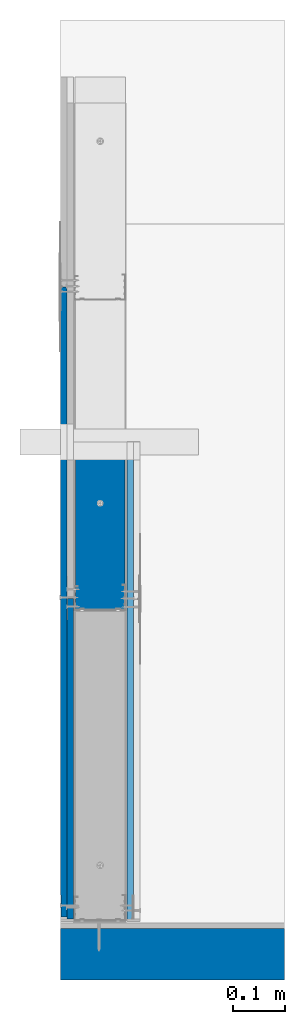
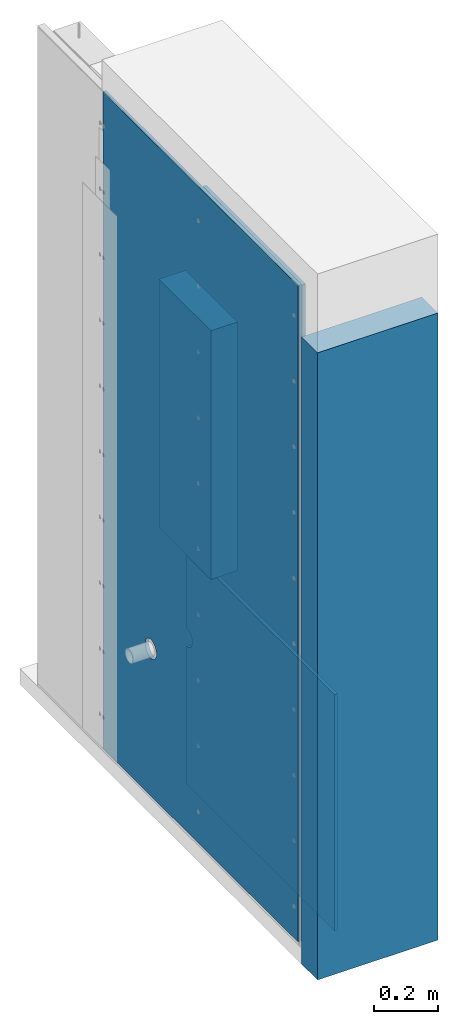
# One storey, part 5 of 92: 5 walls.
"""IFC2X3 building model written with IfcOpenShell, lengths in millimetres."""

import ifcopenshell
import ifcopenshell.guid

model = None  # the IFC model being written
_history = None  # IfcOwnerHistory: only IFC2X3 demands one
_inside = {}  # id of a spatial element -> (the spatial element, [elements in it])
_under = {}  # id of a project, library or spatial element -> (it, [spatial elements below it])
_declared = {}  # id of a project -> (the project, [libraries it declares])
_typed = {}  # id of a type object -> (the type object, [elements of that type])
_made_of = {}  # id of a material, layer set ... -> (it, [elements and type objects made of it])


def new_model(schema):
    """Start an empty IFC model of exactly this schema.

    Asked for "IFC4X3", IfcOpenShell would pick the latest addendum, in which some entities
    have other attributes; the version numbers below select the first issue.
    IFC2X3 requires an IfcOwnerHistory on every rooted entity: one is made here for all.
    """
    global model, _history
    if schema == "IFC4X3":
        model = ifcopenshell.file(schema_version=(4, 3, 0, 0))
    else:
        model = ifcopenshell.file(schema=schema)
    _inside.clear()
    _under.clear()
    _declared.clear()
    _typed.clear()
    _made_of.clear()
    _history = None
    if model.schema == "IFC2X3":
        org = make("IfcOrganization", Name="unknown")
        user = make(
            "IfcPersonAndOrganization",
            ThePerson=make("IfcPerson", FamilyName="unknown"),
            TheOrganization=org,
        )
        app = make(
            "IfcApplication",
            ApplicationDeveloper=org,
            Version="unknown",
            ApplicationFullName="unknown",
            ApplicationIdentifier="unknown",
        )
        _history = make(
            "IfcOwnerHistory",
            OwningUser=user,
            OwningApplication=app,
            ChangeAction="ADDED",
            CreationDate=0,
        )
    return model


def make(cls, **values):
    """One entity of the class cls with the attributes given. An attribute that is None is left unset."""
    return model.create_entity(
        cls, **{name: value for name, value in values.items() if value is not None}
    )


def rooted(cls, **values):
    """An entity with a GlobalId (a new one), such as an element, a storey or a relation."""
    return make(cls, GlobalId=ifcopenshell.guid.new(), OwnerHistory=_history, **values)


def si_unit(unit_type, name, prefix=None):
    """IfcSIUnit, for example si_unit("LENGTHUNIT", "METRE", prefix="MILLI")."""
    return make("IfcSIUnit", UnitType=unit_type, Prefix=prefix, Name=name)


def assignment(units):
    """IfcUnitAssignment: the units of a project."""
    return None if units is None else make("IfcUnitAssignment", Units=units)


def point(xyz):
    """IfcCartesianPoint."""
    return None if xyz is None else make("IfcCartesianPoint", Coordinates=xyz)


def direction(xyz):
    """IfcDirection."""
    return None if xyz is None else make("IfcDirection", DirectionRatios=xyz)


def frame(location, z_axis=None, x_axis=None):
    """IfcAxis2Placement3D, a coordinate frame: its origin and axes. An axis left out is left unset."""
    return make(
        "IfcAxis2Placement3D",
        Location=point(location),
        Axis=direction(z_axis),
        RefDirection=direction(x_axis),
    )


def origin_with_axes():
    """The frame at (0, 0, 0) with the z axis (0, 0, 1) and the x axis (1, 0, 0) written out."""
    return frame((0.0, 0.0, 0.0), z_axis=(0.0, 0.0, 1.0), x_axis=(1.0, 0.0, 0.0))


def place(relative_to, where):
    """IfcLocalPlacement: puts the frame where relative to a parent placement (None: the world)."""
    return make(
        "IfcLocalPlacement", PlacementRelTo=relative_to, RelativePlacement=where
    )


def context(
    kind, dimensions, precision=None, world=None, true_north=None, identifier=None
):
    """IfcGeometricRepresentationContext, for example the 3D "Model" context."""
    return make(
        "IfcGeometricRepresentationContext",
        ContextIdentifier=identifier,
        ContextType=kind,
        CoordinateSpaceDimension=dimensions,
        Precision=precision,
        WorldCoordinateSystem=world,
        TrueNorth=true_north,
    )


def subcontext(parent, identifier, kind, view, scale=None):
    """IfcGeometricRepresentationSubContext, for example "Body" below "Model"."""
    return make(
        "IfcGeometricRepresentationSubContext",
        ContextIdentifier=identifier,
        ContextType=kind,
        ParentContext=parent,
        TargetScale=scale,
        TargetView=view,
    )


def project(units=None, contexts=None):
    """IfcProject with its units and contexts."""
    return rooted(
        "IfcProject",
        Name="project",
        RepresentationContexts=contexts,
        UnitsInContext=assignment(units),
    )


def spatial(cls, under=None, at=None, **own):
    """A site, building, storey or space (cls), placed at a placement, below another one or the project."""
    s = rooted(cls, ObjectPlacement=at, **own)
    if under is not None:
        _under.setdefault(under.id(), (under, []))[1].append(s)
    return s


def faces_of(points, faces, orient=None, outer=None):
    """IfcFace entities. A face is a list of loops; a loop is a list of indices into points, from 0.

    orient and outer hold one flag for each loop. By default every Orientation is true, the
    first loop of a face is its IfcFaceOuterBound and the others are IfcFaceBound.
    """
    made = []
    for i, loops in enumerate(faces):
        bounds = []
        for j, loop in enumerate(loops):
            is_outer = j == 0 if outer is None else outer[i][j]
            bounds.append(
                make(
                    "IfcFaceOuterBound" if is_outer else "IfcFaceBound",
                    Bound=make("IfcPolyLoop", Polygon=[points[k] for k in loop]),
                    Orientation=True if orient is None else orient[i][j],
                )
            )
        made.append(make("IfcFace", Bounds=bounds))
    return made


def faceted_brep(points, faces, orient=None, outer=None, voids=None):
    """IfcFacetedBrep: a solid bounded by flat faces; with voids (closed shells), ...WithVoids."""
    shared = [point(p) for p in points]
    hull = make("IfcClosedShell", CfsFaces=faces_of(shared, faces, orient, outer))
    if voids is None:
        return make("IfcFacetedBrep", Outer=hull)
    return make(
        "IfcFacetedBrepWithVoids",
        Outer=hull,
        Voids=[
            make(cls, CfsFaces=faces_of(shared, fs, o, b)) for cls, fs, o, b in voids
        ],
    )


def shape(context_of_items, identifier, shape_type, items):
    """IfcShapeRepresentation: the items that make up one representation, for example the "Body"."""
    return make(
        "IfcShapeRepresentation",
        ContextOfItems=context_of_items,
        RepresentationIdentifier=identifier,
        RepresentationType=shape_type,
        Items=items,
    )


def material(Name=None, Category=None):
    """IfcMaterial."""
    return make("IfcMaterial", Name=Name, Category=Category)


def made_of(thing, what):
    """Note that an element or type object is made of a material, layer set ...; save() writes the relation."""
    if what is not None:
        _made_of.setdefault(what.id(), (what, []))[1].append(thing)
    return thing


def type_object(cls, material=None, **own):
    """A type object (cls), such as IfcWallType, which elements share."""
    return made_of(rooted(cls, **own), material)


def element(
    cls,
    number,
    at=None,
    inside=None,
    cuts=None,
    type_object=None,
    material=None,
    context=None,
    identifier="Body",
    shape_type=None,
    held_by="IfcProductDefinitionShape",
    body=None,
    shapes=None,
    **own,
):
    """One element of the class cls, such as IfcWall. Its Tag is "e" and its number.

    at: its placement. inside: the storey or other place that contains it. cuts: it is an
    opening in that element (IfcRelVoidsElement). A single representation is given by context,
    identifier, shape_type and body (its items); several are given by shapes. held_by: the class
    of the entity that holds the representations. save() writes the other relations.
    """
    e = rooted(cls, Tag="e%d" % number, ObjectPlacement=at, **own)
    if body is not None:
        shapes = [shape(context, identifier, shape_type, body)]
    if shapes is not None:
        e.Representation = make(held_by, Representations=shapes)
    if inside is not None:
        _inside.setdefault(inside.id(), (inside, []))[1].append(e)
    if cuts is not None:
        rooted(
            "IfcRelVoidsElement", RelatingBuildingElement=cuts, RelatedOpeningElement=e
        )
    if type_object is not None:
        _typed.setdefault(type_object.id(), (type_object, []))[1].append(e)
    return made_of(e, material)


def aggregate(whole, parts):
    """IfcRelAggregates: a whole, such as a stair, and the parts it consists of."""
    return rooted("IfcRelAggregates", RelatingObject=whole, RelatedObjects=parts)


def save(model, path):
    """Write the relations noted so far, then the file.

    IfcRelAggregates (storeys below a building ...), IfcRelContainedInSpatialStructure (elements
    in a storey), IfcRelDefinesByType, IfcRelAssociatesMaterial and IfcRelDeclares: one each for
    every whole, place, type object, material and project.
    """
    for whole, parts in _under.values():
        aggregate(whole, parts)
    for where, things in _inside.values():
        rooted(
            "IfcRelContainedInSpatialStructure",
            RelatedElements=things,
            RelatingStructure=where,
        )
    for kind, things in _typed.values():
        rooted("IfcRelDefinesByType", RelatedObjects=things, RelatingType=kind)
    for what, things in _made_of.values():
        rooted("IfcRelAssociatesMaterial", RelatedObjects=things, RelatingMaterial=what)
    for by, libraries in _declared.values():
        rooted("IfcRelDeclares", RelatingContext=by, RelatedDefinitions=libraries)
    model.write(path)


model = new_model("IFC2X3")

# Units and contexts
model_context = context("Model", 3, world=origin_with_axes())
body_context = subcontext(model_context, "Body", "Model", "MODEL_VIEW")
ifc_project = project(units=[si_unit("LENGTHUNIT", "METRE", prefix="MILLI"), si_unit("AREAUNIT", "SQUARE_METRE"), si_unit("VOLUMEUNIT", "CUBIC_METRE")], contexts=[model_context])

# Site, building, storey
site_placement = place(None, origin_with_axes())
site = spatial("IfcSite", under=ifc_project, at=site_placement, Name="Default Site", CompositionType="ELEMENT")
building_placement = place(site_placement, origin_with_axes())
building = spatial("IfcBuilding", under=site, at=building_placement, Name="Default Building", CompositionType="ELEMENT")
storey_placement = place(building_placement, origin_with_axes())
storey = spatial("IfcBuildingStorey", under=building, at=storey_placement, Name="Default Building Storey", CompositionType="ELEMENT", Elevation=0.0)

# Walls
ifc_material_1 = material(Name="M03_Pewter_Shine")
wall_type_1 = type_object("IfcWallType", Name="Ściana#2", PredefinedType="NOTDEFINED")
wall_1_placement = place(storey_placement, frame((30.00000000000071, 103.00000000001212, 2594.0099832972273), z_axis=(-4.0245584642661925e-16, -1.0, 8.326672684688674e-17), x_axis=(3.3511181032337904e-32, 8.326672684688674e-17, 1.0)))
element("IfcWall", 1, at=wall_1_placement, inside=storey, type_object=wall_type_1, material=ifc_material_1, Name="Ściana", context=body_context, shape_type="Brep", body=[
    faceted_brep([(-205.9999832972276, 29.999999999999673, 3.0000004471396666), (-205.9999832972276, 29.999999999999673, 103.00000000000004), (-205.9999832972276, -403.00000000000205, 103.00000000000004), (-205.9999832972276, -403.00000000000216, 3.0000004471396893), (-2594.0099832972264, 29.999999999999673, 102.99999999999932), (-2594.0099832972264, 29.999999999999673, 3.0000004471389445), (-2594.0099832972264, -403.00000000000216, 3.000000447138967), (-2594.0099832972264, -403.00000000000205, 102.99999999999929)], [[[0, 1, 2, 3]], [[4, 5, 6, 7]], [[1, 0, 5, 4]], [[2, 1, 4, 7]], [[3, 2, 7, 6]], [[0, 3, 6, 5]]]),
])
ifc_material_2 = material(Name="Undefined7")
wall_type_2 = type_object("IfcWallType", Name="Wełna mineralna szklana lub skalna ISOVER#5", PredefinedType="NOTDEFINED")
wall_2_placement = place(storey_placement, frame((-3300.1804365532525, 624.8453720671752, 1317.661340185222), z_axis=(0.0, 0.0, 1.0), x_axis=(-8.743006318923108e-16, -1.0, 0.0)))
element("IfcWall", 2, at=wall_2_placement, inside=storey, type_object=wall_type_2, material=ifc_material_2, Name="Wełna mineralna szklana lub skalna ISOVER", context=body_context, shape_type="Brep", body=[
    faceted_brep([(-415.37010775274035, 3329.283237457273, 710.0263702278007), (-415.37010775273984, 3425.092905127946, 710.0263702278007), (-415.37010775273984, 3425.092905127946, -236.9700000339), (-415.37010775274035, 3329.283237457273, -236.9700000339), (-90.72011967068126, 3329.283237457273, 710.0263702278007), (-90.72011967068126, 3425.092905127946, 710.0263702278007)], [[[0, 1, 2, 3]], [[0, 4, 5, 1]]]),
    faceted_brep([(-415.37010775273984, 3425.092905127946, -236.9700000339), (-90.72011967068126, 3425.092905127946, -236.9700000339), (-90.72011967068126, 3329.283237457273, -236.9700000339), (-415.37010775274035, 3329.283237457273, -236.9700000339), (-415.37010775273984, 3425.092905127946, 710.0263702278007), (-90.72011967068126, 3425.092905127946, 710.0263702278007), (-90.72011967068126, 3329.283237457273, 710.0263702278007), (-415.37010775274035, 3329.283237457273, 710.0263702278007)], [[[0, 1, 2, 3]], [[4, 5, 1, 0]], [[3, 2, 6, 7]], [[5, 6, 2, 1]]]),
])
ifc_material_3 = material(Name="Undefined6")
wall_type_3 = type_object("IfcWallType", Name="Płyta gipsowo-kartonowa RIGIPS PRO (4PRO™)#3", PredefinedType="NOTDEFINED")
wall_3_placement = place(storey_placement, frame((12.500000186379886, 140.2154987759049, 1120.0056054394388), z_axis=(0.0, 0.0, 1.0), x_axis=(4.0245584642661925e-16, 1.0, 0.0)))
element("IfcWall", 3, at=wall_3_placement, inside=storey, type_object=wall_type_3, material=ifc_material_3, Name="Płyta gipsowo-kartonowa RIGIPS PRO (4PRO™)", context=body_context, shape_type="Brep", body=[
    faceted_brep([(1159.0000391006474, 11.500000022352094, 1450.0000014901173), (1154.999971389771, 12.500000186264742, 1450.0000014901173), (27.000001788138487, 12.500000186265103, 1450.0000014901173), (23.000001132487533, 11.500000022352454, 1450.0000014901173), (-16.999999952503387, 11.500000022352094, 1450.0000014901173), (-17.25881903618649, 11.46592572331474, 1450.0000014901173), (-17.499999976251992, 11.36602554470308, 1450.0000014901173), (-17.707106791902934, 11.207106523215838, 1450.0000014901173), (-17.86602540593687, 10.999999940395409, 1450.0000014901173), (-17.965925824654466, 10.758819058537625, 1450.0000014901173), (-18.000000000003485, 10.499999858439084, 1450.0000014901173), (-18.0000000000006, -3.609557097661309e-11, 1450.0000014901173), (1200.0000476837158, -3.6456526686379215e-11, 1450.0000014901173), (1200.0000476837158, 10.499999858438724, 1450.0000014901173), (1199.965953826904, 10.758819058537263, 1450.0000014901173), (1199.8660564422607, 10.999999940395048, 1450.0000014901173), (1199.70715045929, 11.207106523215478, 1450.0000014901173), (1199.4999647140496, 11.366025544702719, 1450.0000014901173), (1199.2588043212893, 11.465925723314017, 1450.0000014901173), (1199.0000009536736, 11.500000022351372, 1450.0000014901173), (1199.965953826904, 10.758819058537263, -1050.001621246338), (1200.0000476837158, 10.499999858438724, -1050.001621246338), (1200.0000476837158, -3.6095570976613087e-13, -1050.001621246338), (-18.0000000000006, 0.0, -1050.001621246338), (-18.000000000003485, 10.499999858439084, -1050.001621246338), (-17.965925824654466, 10.758819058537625, -1050.001621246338), (-17.86602540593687, 10.999999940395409, -1050.001621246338), (-17.707106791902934, 11.207106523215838, -1050.001621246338), (-17.499999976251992, 11.36602554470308, -1050.001621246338), (-17.25881903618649, 11.46592572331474, -1050.001621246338), (-16.999999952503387, 11.500000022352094, -1050.001621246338), (23.000001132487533, 11.500000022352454, -1050.001621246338), (27.000001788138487, 12.500000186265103, -1050.001621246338), (1154.999971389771, 12.500000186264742, -1050.001621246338), (1159.0000391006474, 11.500000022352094, -1050.001621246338), (1199.0000009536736, 11.500000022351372, -1050.001621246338), (1199.2588043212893, 11.465925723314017, -1050.001621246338), (1199.4999647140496, 11.366025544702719, -1050.001621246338), (1199.70715045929, 11.207106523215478, -1050.001621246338), (1199.8660564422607, 10.999999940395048, -1050.001621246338), (895.4539908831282, 12.50000018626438, -455.18648335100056), (892.7425749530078, 12.50000018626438, -455.63454139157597), (890.0746716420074, 12.50000018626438, -456.29395346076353), (887.4667294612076, 12.50000018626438, -457.1606540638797), (884.9348272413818, 12.50000018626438, -458.22929970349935), (882.4945750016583, 12.50000018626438, -459.4933018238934), (880.1610177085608, 12.50000018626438, -460.94486743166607), (877.9485425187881, 12.50000018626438, -462.575047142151), (875.870790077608, 12.50000018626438, -464.37379035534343), (873.9405704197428, 12.50000018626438, -466.3300072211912), (872.1697839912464, 12.50000018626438, -468.43163701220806), (870.5693482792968, 12.50000018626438, -470.6657224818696), (869.1491305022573, 12.50000018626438, -473.0184897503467), (867.9178867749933, 12.50000018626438, -475.47543322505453), (866.8832081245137, 12.500000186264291, -478.0214050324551), (866.0514736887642, 12.500000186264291, -480.640708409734), (865.4278113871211, 12.500000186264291, -483.3171944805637), (865.0160663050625, 12.500000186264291, -486.0343618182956), (864.8187769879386, 12.500000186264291, -488.77545818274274), (864.837159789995, 12.500000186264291, -491.5235838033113), (865.0711013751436, 12.500000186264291, -494.2617955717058), (865.5191594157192, 12.500000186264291, -496.97321150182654), (866.1785714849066, 12.500000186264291, -499.6411148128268), (867.0452720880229, 12.50000018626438, -502.2490569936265), (868.1139177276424, 12.50000018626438, -504.7809592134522), (869.3779198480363, 12.50000018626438, -507.2212114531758), (870.829485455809, 12.50000018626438, -509.55476874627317), (872.4596651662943, 12.50000018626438, -511.76724393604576), (874.2584083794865, 12.50000018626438, -513.844996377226), (876.2146252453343, 12.50000018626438, -515.7752160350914), (878.3162550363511, 12.50000018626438, -517.5460024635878), (880.5503405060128, 12.50000018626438, -519.1464381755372), (882.9031077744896, 12.50000018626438, -520.5666559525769), (885.3600512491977, 12.50000018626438, -521.7978996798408), (887.9060230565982, 12.50000018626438, -522.8325783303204), (890.5253264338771, 12.50000018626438, -523.6643127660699), (893.2018125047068, 12.50000018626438, -524.2879750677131), (895.9189798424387, 12.50000018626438, -524.6997201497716), (898.660076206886, 12.50000018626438, -524.8970094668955), (901.4082018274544, 12.50000018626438, -524.8786266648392), (904.1464135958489, 12.50000018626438, -524.6446850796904), (906.8578295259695, 12.50000018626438, -524.196627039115), (909.5257328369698, 12.50000018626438, -523.5372149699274), (912.1336750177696, 12.50000018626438, -522.6705143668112), (914.6655772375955, 12.50000018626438, -521.6018687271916), (917.1058294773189, 12.50000018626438, -520.3378666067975), (919.4393867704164, 12.50000018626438, -518.8863009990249), (921.6518619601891, 12.50000018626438, -517.2561212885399), (923.7296144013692, 12.50000018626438, -515.4573780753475), (925.6598340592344, 12.50000018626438, -513.5011612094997), (927.4306204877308, 12.50000018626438, -511.39953141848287), (929.0310561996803, 12.50000018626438, -509.16544594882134), (930.4512739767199, 12.50000018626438, -506.8126786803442), (931.6825177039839, 12.50000018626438, -504.3557352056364), (932.7171963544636, 12.50000018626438, -501.8097633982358), (933.548930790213, 12.50000018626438, -499.19046002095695), (934.1725930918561, 12.50000018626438, -496.5139739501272), (934.5843381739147, 12.50000018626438, -493.79680661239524), (934.7816274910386, 12.50000018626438, -491.0557102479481), (934.7632446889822, 12.50000018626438, -488.3075846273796), (934.5293031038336, 12.50000018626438, -485.569372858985), (934.081245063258, 12.50000018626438, -482.8579569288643), (933.4218329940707, 12.50000018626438, -480.190053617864), (932.5551323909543, 12.50000018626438, -477.58211143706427), (931.4864867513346, 12.50000018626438, -475.05020921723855), (930.2224846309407, 12.50000018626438, -472.60995697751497), (928.7709190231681, 12.50000018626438, -470.2763996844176), (927.140739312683, 12.50000018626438, -468.063924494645), (925.3419960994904, 12.50000018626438, -465.98617205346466), (923.3857792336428, 12.50000018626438, -464.0559523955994), (921.2841494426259, 12.500000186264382, -462.2851659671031), (919.0500639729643, 12.50000018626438, -460.68473025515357), (916.697296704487, 12.50000018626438, -459.2645124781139), (914.2403532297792, 12.500000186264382, -458.03326875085), (911.6943814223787, 12.50000018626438, -456.99859010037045), (909.0750780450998, 12.50000018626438, -456.1668556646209), (906.3985919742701, 12.50000018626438, -455.5431933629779), (903.681424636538, 12.50000018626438, -455.13144828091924), (900.9403282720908, 12.50000018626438, -454.9341589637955), (898.1922026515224, 12.50000018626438, -454.9525417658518), (895.4539908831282, -9.11272168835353e-12, -455.18648335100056), (898.1922026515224, -9.11272168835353e-12, -454.9525417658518), (900.9403282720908, -9.114131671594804e-12, -454.9341589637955), (903.681424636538, -9.11272168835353e-12, -455.13144828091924), (906.3985919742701, -9.111311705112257e-12, -455.5431933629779), (909.0750780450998, -9.11272168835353e-12, -456.1668556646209), (911.6943814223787, -9.11272168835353e-12, -456.99859010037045), (914.2403532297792, -9.111311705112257e-12, -458.03326875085), (916.697296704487, -9.11272168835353e-12, -459.2645124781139), (919.0500639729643, -9.11272168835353e-12, -460.68473025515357), (921.2841494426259, -9.111311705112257e-12, -462.2851659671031), (923.3857792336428, -9.11272168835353e-12, -464.0559523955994), (925.3419960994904, -9.11272168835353e-12, -465.98617205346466), (927.140739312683, -9.111311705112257e-12, -468.063924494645), (928.7709190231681, -9.114131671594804e-12, -470.2763996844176), (930.2224846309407, -9.11272168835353e-12, -472.60995697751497), (931.4864867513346, -9.11272168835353e-12, -475.05020921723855), (932.5551323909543, -9.11272168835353e-12, -477.58211143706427), (933.4218329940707, -9.11272168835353e-12, -480.190053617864), (934.081245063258, -9.111311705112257e-12, -482.8579569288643), (934.5293031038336, -9.111311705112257e-12, -485.569372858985), (934.7632446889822, -9.111311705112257e-12, -488.3075846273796), (934.7816274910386, -9.111311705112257e-12, -491.0557102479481), (934.5843381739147, -9.111311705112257e-12, -493.79680661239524), (934.1725930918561, -9.111311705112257e-12, -496.5139739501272), (933.548930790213, -9.11272168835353e-12, -499.19046002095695), (932.7171963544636, -9.11272168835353e-12, -501.8097633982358), (931.6825177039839, -9.11272168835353e-12, -504.3557352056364), (930.4512739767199, -9.11272168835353e-12, -506.8126786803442), (929.0310561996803, -9.114131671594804e-12, -509.16544594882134), (927.4306204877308, -9.111311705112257e-12, -511.39953141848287), (925.6598340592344, -9.11272168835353e-12, -513.5011612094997), (923.7296144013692, -9.11272168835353e-12, -515.4573780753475), (921.6518619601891, -9.114131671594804e-12, -517.2561212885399), (919.4393867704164, -9.11272168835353e-12, -518.8863009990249), (917.1058294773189, -9.11272168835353e-12, -520.3378666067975), (914.6655772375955, -9.114131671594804e-12, -521.6018687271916), (912.1336750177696, -9.11272168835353e-12, -522.6705143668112), (909.5257328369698, -9.11272168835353e-12, -523.5372149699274), (906.8578295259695, -9.111311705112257e-12, -524.196627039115), (904.1464135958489, -9.11272168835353e-12, -524.6446850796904), (901.4082018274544, -9.114131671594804e-12, -524.8786266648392), (898.660076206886, -9.111311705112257e-12, -524.8970094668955), (895.9189798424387, -9.11272168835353e-12, -524.6997201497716), (893.2018125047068, -9.111311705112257e-12, -524.2879750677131), (890.5253264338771, -9.11272168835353e-12, -523.6643127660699), (887.9060230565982, -9.114131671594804e-12, -522.8325783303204), (885.3600512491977, -9.111311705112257e-12, -521.7978996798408), (882.9031077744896, -9.11272168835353e-12, -520.5666559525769), (880.5503405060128, -9.114131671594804e-12, -519.1464381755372), (878.3162550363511, -9.111311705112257e-12, -517.5460024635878), (876.2146252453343, -9.11272168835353e-12, -515.7752160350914), (874.2584083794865, -9.11272168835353e-12, -513.844996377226), (872.4596651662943, -9.114131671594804e-12, -511.76724393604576), (870.829485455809, -9.111311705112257e-12, -509.55476874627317), (869.3779198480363, -9.11272168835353e-12, -507.2212114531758), (868.1139177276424, -9.11272168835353e-12, -504.7809592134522), (867.0452720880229, -9.11272168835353e-12, -502.2490569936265), (866.1785714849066, -9.204370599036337e-12, -499.6411148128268), (865.5191594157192, -9.204370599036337e-12, -496.97321150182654), (865.0711013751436, -9.20155063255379e-12, -494.2617955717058), (864.837159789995, -9.20155063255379e-12, -491.5235838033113), (864.8187769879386, -9.20155063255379e-12, -488.77545818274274), (865.0160663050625, -9.20155063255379e-12, -486.0343618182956), (865.4278113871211, -9.204370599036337e-12, -483.3171944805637), (866.0514736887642, -9.204370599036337e-12, -480.640708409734), (866.8832081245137, -9.204370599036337e-12, -478.0214050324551), (867.9178867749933, -9.11272168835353e-12, -475.47543322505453), (869.1491305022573, -9.11272168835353e-12, -473.0184897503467), (870.5693482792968, -9.111311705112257e-12, -470.6657224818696), (872.1697839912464, -9.111311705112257e-12, -468.43163701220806), (873.9405704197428, -9.114131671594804e-12, -466.3300072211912), (875.870790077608, -9.11272168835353e-12, -464.37379035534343), (877.9485425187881, -9.111311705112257e-12, -462.575047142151), (880.1610177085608, -9.114131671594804e-12, -460.94486743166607), (882.4945750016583, -9.11272168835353e-12, -459.4933018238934), (884.9348272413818, -9.111311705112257e-12, -458.22929970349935), (887.4667294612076, -9.114131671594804e-12, -457.1606540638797), (890.0746716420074, -9.11272168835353e-12, -456.29395346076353), (892.7425749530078, -9.111311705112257e-12, -455.63454139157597)], [[[0, 1, 2, 3, 4, 5, 6, 7, 8, 9, 10, 11, 12, 13, 14, 15, 16, 17, 18, 19]], [[20, 21, 22, 23, 24, 25, 26, 27, 28, 29, 30, 31, 32, 33, 34, 35, 36, 37, 38, 39]], [[18, 17, 37, 36]], [[19, 18, 36, 35]], [[15, 14, 20, 39]], [[14, 13, 21, 20]], [[16, 15, 39, 38]], [[17, 16, 38, 37]], [[7, 6, 28, 27]], [[26, 8, 7, 27]], [[23, 11, 10, 24]], [[24, 10, 9, 25]], [[1, 0, 34, 33]], [[1, 33, 32, 2], [40, 41, 42, 43, 44, 45, 46, 47, 48, 49, 50, 51, 52, 53, 54, 55, 56, 57, 58, 59, 60, 61, 62, 63, 64, 65, 66, 67, 68, 69, 70, 71, 72, 73, 74, 75, 76, 77, 78, 79, 80, 81, 82, 83, 84, 85, 86, 87, 88, 89, 90, 91, 92, 93, 94, 95, 96, 97, 98, 99, 100, 101, 102, 103, 104, 105, 106, 107, 108, 109, 110, 111, 112, 113, 114, 115, 116, 117, 118, 119]], [[0, 19, 35, 34]], [[4, 3, 31, 30]], [[5, 4, 30, 29]], [[13, 12, 22, 21]], [[6, 5, 29, 28]], [[25, 9, 8, 26]], [[3, 2, 32, 31]], [[22, 12, 11, 23], [120, 121, 122, 123, 124, 125, 126, 127, 128, 129, 130, 131, 132, 133, 134, 135, 136, 137, 138, 139, 140, 141, 142, 143, 144, 145, 146, 147, 148, 149, 150, 151, 152, 153, 154, 155, 156, 157, 158, 159, 160, 161, 162, 163, 164, 165, 166, 167, 168, 169, 170, 171, 172, 173, 174, 175, 176, 177, 178, 179, 180, 181, 182, 183, 184, 185, 186, 187, 188, 189, 190, 191, 192, 193, 194, 195, 196, 197, 198, 199]], [[40, 119, 121, 120]], [[119, 118, 122, 121]], [[118, 117, 123, 122]], [[117, 116, 124, 123]], [[116, 115, 125, 124]], [[115, 114, 126, 125]], [[114, 113, 127, 126]], [[113, 112, 128, 127]], [[112, 111, 129, 128]], [[111, 110, 130, 129]], [[110, 109, 131, 130]], [[109, 108, 132, 131]], [[108, 107, 133, 132]], [[107, 106, 134, 133]], [[106, 105, 135, 134]], [[105, 104, 136, 135]], [[104, 103, 137, 136]], [[103, 102, 138, 137]], [[102, 101, 139, 138]], [[101, 100, 140, 139]], [[100, 99, 141, 140]], [[99, 98, 142, 141]], [[98, 97, 143, 142]], [[97, 96, 144, 143]], [[96, 95, 145, 144]], [[95, 94, 146, 145]], [[94, 93, 147, 146]], [[93, 92, 148, 147]], [[92, 91, 149, 148]], [[91, 90, 150, 149]], [[90, 89, 151, 150]], [[89, 88, 152, 151]], [[88, 87, 153, 152]], [[87, 86, 154, 153]], [[86, 85, 155, 154]], [[85, 84, 156, 155]], [[84, 83, 157, 156]], [[83, 82, 158, 157]], [[82, 81, 159, 158]], [[81, 80, 160, 159]], [[80, 79, 161, 160]], [[79, 78, 162, 161]], [[78, 77, 163, 162]], [[77, 76, 164, 163]], [[76, 75, 165, 164]], [[75, 74, 166, 165]], [[74, 73, 167, 166]], [[73, 72, 168, 167]], [[72, 71, 169, 168]], [[71, 70, 170, 169]], [[70, 69, 171, 170]], [[69, 68, 172, 171]], [[68, 67, 173, 172]], [[67, 66, 174, 173]], [[66, 65, 175, 174]], [[65, 64, 176, 175]], [[64, 63, 177, 176]], [[63, 62, 178, 177]], [[62, 61, 179, 178]], [[61, 60, 180, 179]], [[60, 59, 181, 180]], [[59, 58, 182, 181]], [[58, 57, 183, 182]], [[57, 56, 184, 183]], [[56, 55, 185, 184]], [[55, 54, 186, 185]], [[54, 53, 187, 186]], [[53, 52, 188, 187]], [[52, 51, 189, 188]], [[51, 50, 190, 189]], [[50, 49, 191, 190]], [[49, 48, 192, 191]], [[48, 47, 193, 192]], [[47, 46, 194, 193]], [[46, 45, 195, 194]], [[45, 44, 196, 195]], [[44, 43, 197, 196]], [[43, 42, 198, 197]], [[42, 41, 199, 198]], [[41, 40, 120, 199]]]),
])
wall_type_4 = type_object("IfcWallType", Name="Płyta gipsowo-kartonowa RIGIPS PRO (4PRO™)#10", PredefinedType="NOTDEFINED")
wall_4_placement = place(storey_placement, frame((24.996170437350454, 738.0157675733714, 1120.1685509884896), z_axis=(0.0, 0.0, 1.0), x_axis=(6.38530894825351e-13, -1.0, 0.0)))
element("IfcWall", 4, at=wall_4_placement, inside=storey, type_object=wall_type_4, material=ifc_material_3, Name="Płyta gipsowo-kartonowa RIGIPS PRO (4PRO™)", context=body_context, shape_type="Brep", body=[
    faceted_brep([(620.0113758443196, -12.500000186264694, -1050.001621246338), (620.0113758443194, 5.346656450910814e-11, -1050.001621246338), (620.0113758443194, 5.43238343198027e-11, 1450.0000014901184), (620.0113758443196, -12.500000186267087, 1450.0000014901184), (45.00000178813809, -12.500000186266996, 1450.0000014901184), (45.00000178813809, -12.500000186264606, -1050.001621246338), (41.00000113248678, -11.50000002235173, -1050.001621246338), (41.00000113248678, -11.50000002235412, 1450.0000014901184), (1.0000000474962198, -11.500000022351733, -1050.001621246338), (1.0000000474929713, -11.500000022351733, 1450.0000014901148), (0.7411809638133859, -11.465925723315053, -1050.001621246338), (0.7411809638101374, -11.465925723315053, 1450.0000014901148), (0.5000000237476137, -11.36602554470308, -1050.001621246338), (0.500000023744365, -11.36602554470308, 1450.0000014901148), (0.2928932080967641, -11.207106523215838, -1050.001621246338), (0.2928932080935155, -11.207106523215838, 1450.0000014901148), (0.13397459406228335, -10.999999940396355, -1050.001621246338), (0.13397459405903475, -10.999999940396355, 1450.0000014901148), (0.03407417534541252, -10.758819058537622, -1050.001621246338), (0.03407417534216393, -10.758819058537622, 1450.0000014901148), (-3.4290792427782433e-12, -10.499999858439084, -1050.001621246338), (-6.677680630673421e-12, -10.499999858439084, 1450.0000014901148), (-7.219114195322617e-13, 0.0, -1050.001621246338), (-3.9705128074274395e-12, 0.0, 1450.0000014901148)], [[[0, 1, 2, 3]], [[0, 3, 4, 5]], [[6, 5, 4, 7]], [[8, 6, 7, 9]], [[10, 8, 9, 11]], [[12, 10, 11, 13]], [[14, 12, 13, 15]], [[16, 14, 15, 17]], [[18, 16, 17, 19]], [[20, 18, 19, 21]], [[22, 20, 21, 23]], [[22, 23, 2, 1]], [[6, 8, 10, 12, 14, 16, 18, 20, 22, 1, 0, 5]], [[9, 7, 4, 3, 2, 23, 21, 19, 17, 15, 13, 11]]]),
])
wall_type_5 = type_object("IfcWallType", Name="Płyta gipsowo-kartonowa RIGIPS PRO (4PRO™)#4", PredefinedType="NOTDEFINED")
wall_5_placement = place(storey_placement, frame((128.99617338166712, 1940.361219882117, 1215.0116642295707), z_axis=(0.0, 0.0, 1.0), x_axis=(6.38530894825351e-13, -1.0, 0.0)))
element("IfcWall", 5, at=wall_5_placement, inside=storey, type_object=wall_type_5, material=ifc_material_3, Name="Płyta gipsowo-kartonowa RIGIPS PRO (4PRO™)", context=body_context, shape_type="Brep", body=[
    faceted_brep([(900.0000119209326, 12.5000001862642, -245.00000000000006), (900.0000119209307, 12.5000001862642, -549.9302145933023), (900.0000119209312, 0.0, -549.9302145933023), (900.0000119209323, -1.8047785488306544e-13, -245.00000000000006), (900.0000119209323, -1.8047785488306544e-13, -1145.0207230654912), (900.000011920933, 0.0, -619.9302145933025), (900.0000119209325, 12.5000001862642, -619.9302145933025), (900.0000119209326, 12.5000001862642, -1145.0207230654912), (901.8317703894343, -1.8047785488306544e-13, -549.978180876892), (903.658508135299, 0.0, -550.1219482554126), (905.4752181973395, 1.8047785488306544e-13, -550.3611226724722), (907.2769210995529, 0.0, -550.6950485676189), (909.0586784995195, 0.0, -551.1228106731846), (910.8156067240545, 0.0, -551.6432365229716), (912.5428901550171, 1.8047785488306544e-13, -552.2548996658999), (914.2357944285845, 1.8047785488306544e-13, -552.9561235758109), (915.8896794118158, 0.0, -553.744986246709), (917.5000119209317, 0.0, -554.6193254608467), (919.0623781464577, 3.6095570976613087e-13, -555.5767447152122), (920.5724957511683, 0.0, -556.6146197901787), (922.026225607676, 0.0, -557.7301059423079), (923.4195831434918, 0.0, -558.920145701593), (924.7487492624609, 0.0, -560.1814772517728), (926.0100808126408, 0.0, -561.510643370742), (927.2001205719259, 0.0, -562.9040009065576), (928.3156067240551, 0.0, -564.3577307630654), (929.3534817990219, 0.0, -565.8678483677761), (930.3109010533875, 0.0, -567.430214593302), (931.1852402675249, 1.8047785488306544e-13, -569.0405471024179), (931.9741029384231, 0.0, -570.6944320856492), (932.6753268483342, 0.0, -572.3873363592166), (933.2869899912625, 0.0, -574.114619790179), (933.8074158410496, 0.0, -575.871548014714), (934.2351779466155, 0.0, -577.6533054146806), (934.5691038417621, 1.8047785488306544e-13, -579.4550083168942), (934.8082782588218, 0.0, -581.2717183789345), (934.9520456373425, 0.0, -583.0984561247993), (935.000011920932, 0.0, -584.9302145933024), (934.9520456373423, 0.0, -586.7619730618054), (934.8082782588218, 0.0, -588.5887108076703), (934.5691038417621, 1.8047785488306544e-13, -590.4054208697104), (934.2351779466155, 0.0, -592.2071237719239), (933.8074158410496, 0.0, -593.9888811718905), (933.2869899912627, 0.0, -595.7458093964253), (932.6753268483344, 0.0, -597.4730928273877), (931.9741029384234, 0.0, -599.1659971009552), (931.1852402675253, 1.8047785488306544e-13, -600.8198820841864), (930.3109010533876, 0.0, -602.4302145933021), (929.3534817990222, 0.0, -603.9925808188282), (928.3156067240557, 0.0, -605.5026984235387), (927.2001205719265, 0.0, -606.9564282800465), (926.0100808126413, 0.0, -608.3497858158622), (924.7487492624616, 0.0, -609.6789519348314), (923.4195831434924, 0.0, -610.9402834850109), (922.0262256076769, 0.0, -612.1303232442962), (920.5724957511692, 0.0, -613.2458093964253), (919.0623781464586, 3.6095570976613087e-13, -614.283684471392), (917.5000119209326, 0.0, -615.2411037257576), (915.8896794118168, 0.0, -616.1154429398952), (914.2357944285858, 1.8047785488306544e-13, -616.9043056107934), (912.5428901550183, 1.8047785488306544e-13, -617.6055295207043), (910.815606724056, 0.0, -618.2171926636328), (909.0586784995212, 0.0, -618.7376185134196), (907.2769210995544, 0.0, -619.1653806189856), (905.4752181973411, 1.8047785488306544e-13, -619.4993065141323), (903.6585081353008, 0.0, -619.738480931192), (901.831770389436, -1.8047785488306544e-13, -619.8822483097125), (1822.9965887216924, -1.124470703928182e-06, -1145.0207230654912), (1822.9965887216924, -1.124470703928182e-06, -245.00000000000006), (1822.8625974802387, 10.99999881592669, -1145.0207230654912), (1822.8625974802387, 10.99999881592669, -245.00000000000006), (1822.9624948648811, 10.758817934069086, -245.00000000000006), (1822.9624948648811, 10.758817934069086, -1145.0207230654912), (1822.7036914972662, 11.207105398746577, -245.00000000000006), (1822.4965057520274, 11.36602442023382, -245.00000000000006), (1822.2553453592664, 11.46592459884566, -245.00000000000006), (1821.996541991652, 11.499998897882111, -245.00000000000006), (1781.9965801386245, 11.499998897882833, -245.00000000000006), (1777.9965124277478, 12.499999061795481, -245.00000000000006), (1822.996588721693, 10.499998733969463, -245.00000000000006), (1822.4965057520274, 11.36602442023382, -1145.0207230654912), (1822.2553453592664, 11.46592459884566, -1145.0207230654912), (901.8317703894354, 12.50000018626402, -619.8822483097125), (903.6585081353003, 12.5000001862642, -619.738480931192), (905.4752181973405, 12.50000018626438, -619.4993065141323), (907.276921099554, 12.5000001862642, -619.1653806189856), (909.0586784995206, 12.5000001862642, -618.7376185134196), (910.8156067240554, 12.5000001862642, -618.2171926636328), (912.5428901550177, 12.50000018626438, -617.6055295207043), (914.2357944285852, 12.50000018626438, -616.9043056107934), (915.8896794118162, 12.5000001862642, -616.1154429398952), (917.500011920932, 12.5000001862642, -615.2411037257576), (919.0623781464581, 12.500000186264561, -614.283684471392), (920.5724957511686, 12.5000001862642, -613.2458093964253), (922.0262256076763, 12.5000001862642, -612.1303232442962), (923.419583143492, 12.5000001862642, -610.9402834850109), (924.748749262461, 12.5000001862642, -609.6789519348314), (926.0100808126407, 12.5000001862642, -608.3497858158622), (927.2001205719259, 12.500000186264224, -606.9564282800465), (928.3156067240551, 12.5000001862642, -605.5026984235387), (929.3534817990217, 12.5000001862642, -603.9925808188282), (930.3109010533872, 12.5000001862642, -602.4302145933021), (931.1852402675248, 12.50000018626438, -600.8198820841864), (931.9741029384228, 12.5000001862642, -599.1659971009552), (932.6753268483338, 12.5000001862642, -597.4730928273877), (933.2869899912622, 12.5000001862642, -595.7458093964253), (933.8074158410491, 12.5000001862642, -593.9888811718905), (934.235177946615, 12.5000001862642, -592.2071237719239), (934.5691038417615, 12.50000018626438, -590.4054208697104), (934.8082782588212, 12.5000001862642, -588.5887108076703), (934.9520456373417, 12.5000001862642, -586.7619730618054), (935.0000119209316, 12.5000001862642, -584.9302145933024), (934.9520456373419, 12.5000001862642, -583.0984561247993), (934.8082782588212, 12.5000001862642, -581.2717183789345), (934.5691038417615, 12.50000018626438, -579.4550083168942), (934.235177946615, 12.5000001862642, -577.6533054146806), (933.8074158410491, 12.5000001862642, -575.871548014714), (933.286989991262, 12.5000001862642, -574.114619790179), (932.6753268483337, 12.5000001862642, -572.3873363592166), (931.9741029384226, 12.5000001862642, -570.6944320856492), (931.1852402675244, 12.50000018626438, -569.0405471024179), (930.3109010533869, 12.5000001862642, -567.430214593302), (929.3534817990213, 12.5000001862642, -565.8678483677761), (928.3156067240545, 12.5000001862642, -564.3577307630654), (927.2001205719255, 12.500000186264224, -562.9040009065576), (926.0100808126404, 12.5000001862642, -561.510643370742), (924.7487492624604, 12.5000001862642, -560.1814772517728), (923.4195831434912, 12.5000001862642, -558.920145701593), (922.0262256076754, 12.5000001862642, -557.7301059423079), (920.5724957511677, 12.5000001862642, -556.6146197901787), (919.0623781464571, 12.500000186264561, -555.5767447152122), (917.5000119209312, 12.5000001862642, -554.6193254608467), (915.8896794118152, 12.5000001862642, -553.744986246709), (914.235794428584, 12.50000018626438, -552.9561235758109), (912.5428901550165, 12.50000018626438, -552.2548996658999), (910.815606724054, 12.5000001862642, -551.6432365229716), (909.058678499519, 12.5000001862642, -551.1228106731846), (907.2769210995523, 12.5000001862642, -550.6950485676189), (905.4752181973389, 12.50000018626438, -550.3611226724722), (903.6585081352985, 12.5000001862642, -550.1219482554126), (901.8317703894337, 12.50000018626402, -549.978180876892), (1777.9965124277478, 12.499999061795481, -1145.0207230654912), (1821.996541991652, 11.499998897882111, -1145.0207230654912), (1781.9965801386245, 11.499998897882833, -1145.0207230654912), (1822.7036914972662, 11.207105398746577, -1145.0207230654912), (1822.996588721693, 10.499998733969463, -1145.0207230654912)], [[[0, 1, 2, 3]], [[4, 5, 6, 7]], [[3, 2, 8, 9, 10, 11, 12, 13, 14, 15, 16, 17, 18, 19, 20, 21, 22, 23, 24, 25, 26, 27, 28, 29, 30, 31, 32, 33, 34, 35, 36, 37, 38, 39, 40, 41, 42, 43, 44, 45, 46, 47, 48, 49, 50, 51, 52, 53, 54, 55, 56, 57, 58, 59, 60, 61, 62, 63, 64, 65, 66, 5, 4, 67, 68]], [[69, 70, 71, 72]], [[73, 74, 75, 76, 77, 78, 0, 3, 68, 79, 71, 70]], [[80, 81, 75, 74]], [[7, 6, 82, 83, 84, 85, 86, 87, 88, 89, 90, 91, 92, 93, 94, 95, 96, 97, 98, 99, 100, 101, 102, 103, 104, 105, 106, 107, 108, 109, 110, 111, 112, 113, 114, 115, 116, 117, 118, 119, 120, 121, 122, 123, 124, 125, 126, 127, 128, 129, 130, 131, 132, 133, 134, 135, 136, 137, 138, 139, 140, 1, 0, 78, 141]], [[142, 143, 77, 76]], [[81, 142, 76, 75]], [[144, 73, 70, 69]], [[144, 80, 74, 73]], [[143, 141, 78, 77]], [[145, 79, 68, 67]], [[72, 71, 79, 145]], [[141, 143, 142, 81, 80, 144, 69, 72, 145, 67, 4, 7]], [[82, 6, 5, 66]], [[1, 140, 8, 2]], [[140, 139, 9, 8]], [[139, 138, 10, 9]], [[138, 137, 11, 10]], [[137, 136, 12, 11]], [[136, 135, 13, 12]], [[135, 134, 14, 13]], [[134, 133, 15, 14]], [[133, 132, 16, 15]], [[132, 131, 17, 16]], [[131, 130, 18, 17]], [[130, 129, 19, 18]], [[129, 128, 20, 19]], [[128, 127, 21, 20]], [[127, 126, 22, 21]], [[126, 125, 23, 22]], [[125, 124, 24, 23]], [[124, 123, 25, 24]], [[123, 122, 26, 25]], [[122, 121, 27, 26]], [[121, 120, 28, 27]], [[120, 119, 29, 28]], [[119, 118, 30, 29]], [[118, 117, 31, 30]], [[117, 116, 32, 31]], [[116, 115, 33, 32]], [[115, 114, 34, 33]], [[114, 113, 35, 34]], [[113, 112, 36, 35]], [[112, 111, 37, 36]], [[111, 110, 38, 37]], [[110, 109, 39, 38]], [[109, 108, 40, 39]], [[108, 107, 41, 40]], [[107, 106, 42, 41]], [[106, 105, 43, 42]], [[105, 104, 44, 43]], [[104, 103, 45, 44]], [[103, 102, 46, 45]], [[102, 101, 47, 46]], [[101, 100, 48, 47]], [[100, 99, 49, 48]], [[99, 98, 50, 49]], [[98, 97, 51, 50]], [[97, 96, 52, 51]], [[96, 95, 53, 52]], [[95, 94, 54, 53]], [[94, 93, 55, 54]], [[93, 92, 56, 55]], [[92, 91, 57, 56]], [[91, 90, 58, 57]], [[90, 89, 59, 58]], [[89, 88, 60, 59]], [[88, 87, 61, 60]], [[87, 86, 62, 61]], [[86, 85, 63, 62]], [[85, 84, 64, 63]], [[84, 83, 65, 64]], [[83, 82, 66, 65]]]),
])

save(model, "model.ifc")
